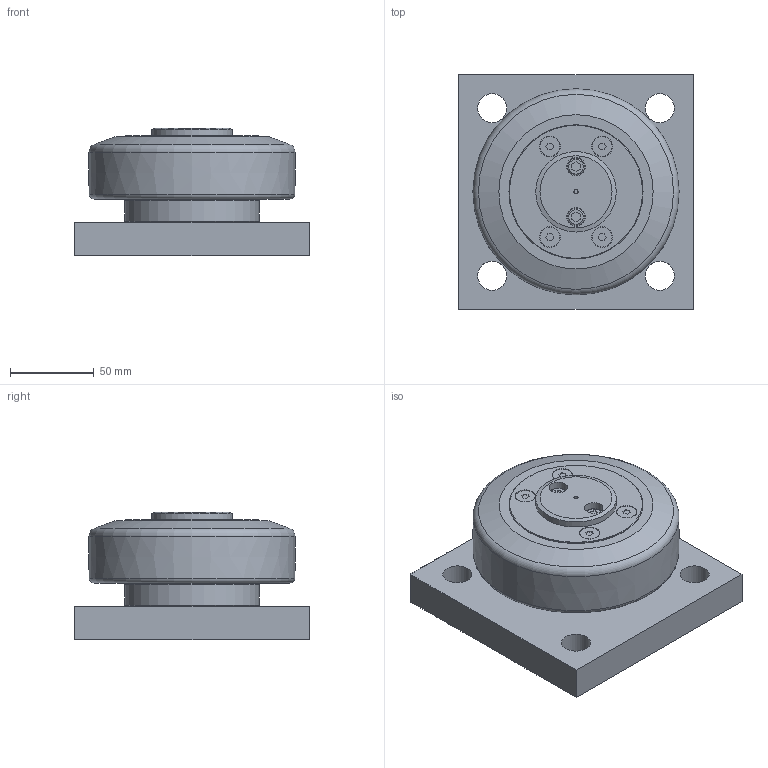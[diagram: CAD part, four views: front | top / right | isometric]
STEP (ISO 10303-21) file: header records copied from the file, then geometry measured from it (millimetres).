
FILE_DESCRIPTION(/* description */ ('-','CAx-IF Rec.Pracs.---Representation and Presentation of Product Manufacturing Information (PMI)---4.0---2014-10-13'),/* implementation_level */ '2;1');
FILE_NAME(/* name */ 'c:\temp\2634b6ab-c966-45c3-a8b5-dac9de76c8e9\61a0fbe9-295c-47b3-83b3-e2b96f3ff8ab.stp',/* time_stamp */ '2020-04-01T16:39:13+02:00',/* author */ ('-'),/* organization */ ('NTI CADcenter A/S'),/* preprocessor_version */ 'ST-DEVELOPER v18',/* originating_system */ 'Autodesk Inventor 2020',/* authorisation */ '-');
FILE_SCHEMA (('AP242_MANAGED_MODEL_BASED_3D_ENGINEERING_MIM_LF { 1 0 10303 442 1 1 4 }'));
Length unit declared in the file: millimetre
Products named in the file (1): TR 120.0368 BQ1000_Kontur
Bounding box: 140 x 140 x 76 mm (x, y, z)
Volume: 875162.5 mm3; surface area: 83238.4 mm2
Topology: 1 solids, 1 shells, 95 faces, 226 edges, 157 vertices
Faces by surface type: plane 66, cylinder 19, cone 5, torus 4, bspline 1
Full cylindrical faces by diameter (mm): 2.5 x1, 11 x2, 11.7 x4, 12.4 x4, 17.294 x4, 48 x1, 80 x3
Entity records: 2873 total; most frequent: CARTESIAN_POINT 505, DIRECTION 498, ORIENTED_EDGE 452, EDGE_CURVE 226, AXIS2_PLACEMENT_3D 177, VERTEX_POINT 157, LINE 144, VECTOR 144
